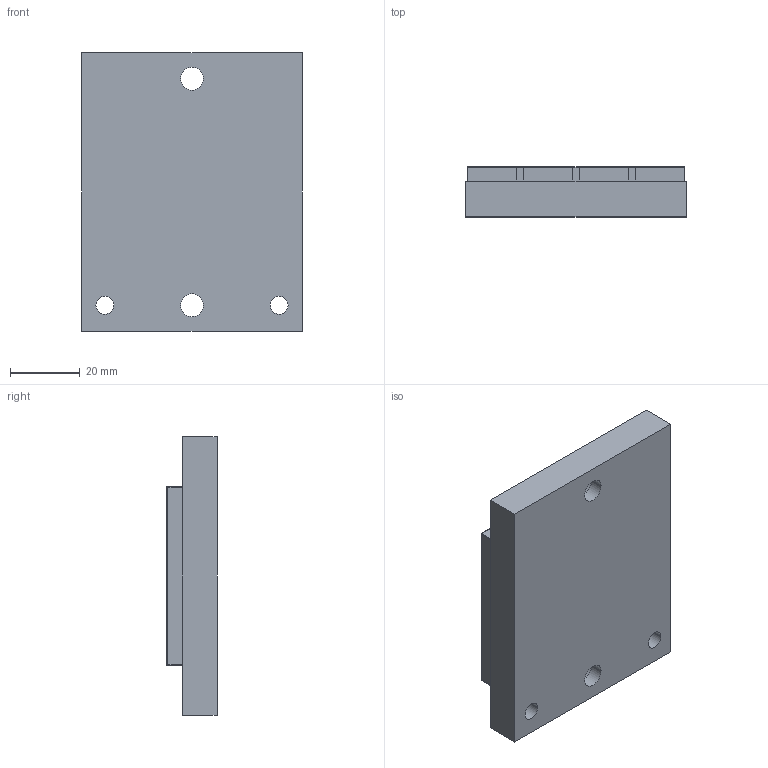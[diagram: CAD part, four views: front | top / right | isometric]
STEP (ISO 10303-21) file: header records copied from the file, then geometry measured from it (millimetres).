
FILE_DESCRIPTION((''),'2;1');
FILE_NAME('MC050-0064-WC','2007-01-14T',('saurabh.singhal'),(''),'PRO/ENGINEER BY PARAMETRIC TECHNOLOGY CORPORATION, 2005450','PRO/ENGINEER BY PARAMETRIC TECHNOLOGY CORPORATION, 2005450','');
FILE_SCHEMA(('CONFIG_CONTROL_DESIGN'));
Length unit declared in the file: millimetre
Products named in the file (1): MC050-0064-WC
Bounding box: 63.3 x 14.4 x 80 mm (x, y, z)
Volume: 61245 mm3; surface area: 23253.5 mm2
Topology: 1 solids, 1 shells, 48 faces, 120 edges, 80 vertices
Faces by surface type: plane 36, cylinder 12
Entity records: 1486 total; most frequent: CARTESIAN_POINT 248, DIRECTION 240, ORIENTED_EDGE 240, EDGE_CURVE 120, VECTOR 96, LINE 96, VERTEX_POINT 80, AXIS2_PLACEMENT_3D 72
